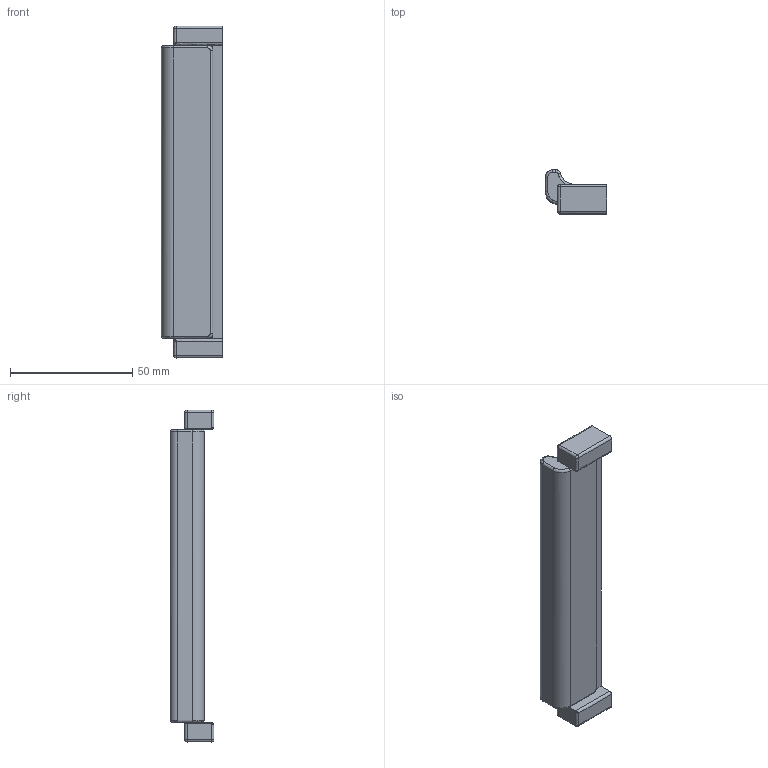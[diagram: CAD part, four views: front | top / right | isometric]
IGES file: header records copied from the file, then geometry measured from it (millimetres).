
Start section: C
Global section: file name: 8133.igs; native system: By Siemens PLM Incorporated; preprocessor: XPlus GENERIC/IGES 16.0.42; author: Author; organization: Title; date: 20231121.093404; units: millimetre
Bounding box: 25 x 17.99 x 135.9 mm (x, y, z)
Surface area: 20657 mm2 (no closed solid volume)
Topology: 0 solids, 0 shells, 271 faces, 1749 edges, 1744 vertices
Faces by surface type: bspline 271
